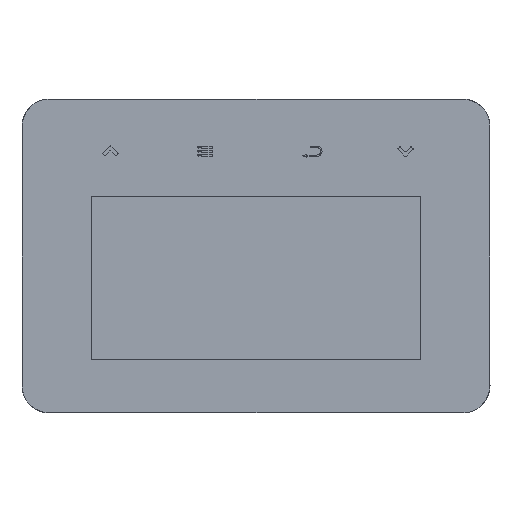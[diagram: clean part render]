
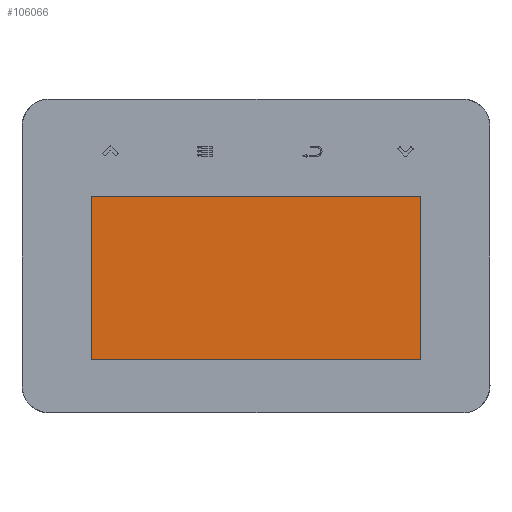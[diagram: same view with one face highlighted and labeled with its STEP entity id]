
A CAD part, top view. The second image highlights one B-rep face of the part: STEP entity #106066.
In plain terms, the highlighted planar face has unit normal (0, 0, 1) as drawn and (0, -1, 0) by its records, which use the part's own axes.
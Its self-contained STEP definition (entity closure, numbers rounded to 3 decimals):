
#7309 = LINE ( 'NONE', #67604, #28411 ) ;
#19245 = LINE ( 'NONE', #79502, #87880 ) ;
#22839 = EDGE_CURVE ( 'NONE', #139628, #149861, #7309, .T. ) ;
#27344 = LINE ( 'NONE', #133117, #111407 ) ;
#28411 = VECTOR ( 'NONE', #110175, 1000. ) ;
#36084 = CARTESIAN_POINT ( 'NONE',  ( -11.061, 0.5, -68.761 ) ) ;
#42694 = ORIENTED_EDGE ( 'NONE', *, *, #157355, .T. ) ;
#43226 = LINE ( 'NONE', #101549, #111295 ) ;
#49772 = CARTESIAN_POINT ( 'NONE',  ( -55.161, 0.5, -46.911 ) ) ;
#55972 = DIRECTION ( 'NONE',  ( -1., 0., 0. ) ) ;
#56317 = CARTESIAN_POINT ( 'NONE',  ( -11.061, 0.5, -25.061 ) ) ;
#58056 = DIRECTION ( 'NONE',  ( 0., 0., -1. ) ) ;
#62820 = ORIENTED_EDGE ( 'NONE', *, *, #134018, .T. ) ;
#67604 = CARTESIAN_POINT ( 'NONE',  ( -11.061, 0.5, -68.761 ) ) ;
#74149 = EDGE_CURVE ( 'NONE', #160050, #139628, #43226, .T. ) ;
#79502 = CARTESIAN_POINT ( 'NONE',  ( -11.061, 0.5, -25.061 ) ) ;
#81418 = FACE_OUTER_BOUND ( 'NONE', #161914, .T. ) ;
#87880 = VECTOR ( 'NONE', #127950, 1000. ) ;
#96963 = VERTEX_POINT ( 'NONE', #56317 ) ;
#97183 = DIRECTION ( 'NONE',  ( 0., 1., 0. ) ) ;
#101549 = CARTESIAN_POINT ( 'NONE',  ( -99.261, 0.5, -68.761 ) ) ;
#102014 = ORIENTED_EDGE ( 'NONE', *, *, #22839, .T. ) ;
#106066 = ADVANCED_FACE ( 'NONE', ( #81418 ), #139884, .F. ) ;
#110175 = DIRECTION ( 'NONE',  ( 1., 0., 0. ) ) ;
#111295 = VECTOR ( 'NONE', #58056, 1000. ) ;
#111407 = VECTOR ( 'NONE', #55972, 1000. ) ;
#114728 = CARTESIAN_POINT ( 'NONE',  ( -99.261, 0.5, -25.061 ) ) ;
#119077 = AXIS2_PLACEMENT_3D ( 'NONE', #49772, #97183, #156618 ) ;
#127950 = DIRECTION ( 'NONE',  ( 0., 0., 1. ) ) ;
#133117 = CARTESIAN_POINT ( 'NONE',  ( -99.261, 0.5, -25.061 ) ) ;
#134018 = EDGE_CURVE ( 'NONE', #149861, #96963, #19245, .T. ) ;
#139628 = VERTEX_POINT ( 'NONE', #159526 ) ;
#139884 = PLANE ( 'NONE',  #119077 ) ;
#149861 = VERTEX_POINT ( 'NONE', #36084 ) ;
#156618 = DIRECTION ( 'NONE',  ( 0., 0., 1. ) ) ;
#157355 = EDGE_CURVE ( 'NONE', #96963, #160050, #27344, .T. ) ;
#159526 = CARTESIAN_POINT ( 'NONE',  ( -99.261, 0.5, -68.761 ) ) ;
#160050 = VERTEX_POINT ( 'NONE', #114728 ) ;
#161914 = EDGE_LOOP ( 'NONE', ( #62820, #42694, #183887, #102014 ) ) ;
#183887 = ORIENTED_EDGE ( 'NONE', *, *, #74149, .T. ) ;
